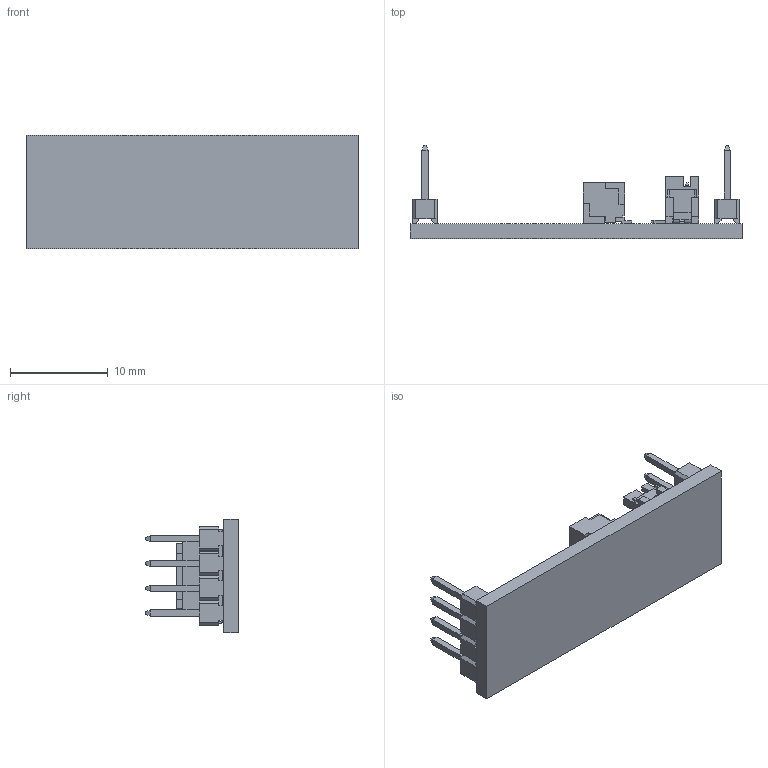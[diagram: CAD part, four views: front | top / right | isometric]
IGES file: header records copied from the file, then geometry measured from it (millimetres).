
Start section: SolidWorks IGES file using analytic representation for surfaces
Global section: file name: C:\Users\Agamemnon\Documents\I2C\LEVEL-CONVERTER-ASM-I2C-LEVEL-CONVERTER-R1\LEVEL-CONVERTER-ASM-I2C-LEVEL-CONVERTER-R1.IGS; native system: SolidWorks 2016; preprocessor: SolidWorks 2016; author: Agamemnon; date: 180709.152321; units: metre
Bounding box: 34 x 9.52 x 11.6 mm (x, y, z)
Surface area: 1788.4 mm2 (no closed solid volume)
Topology: 0 solids, 0 shells, 588 faces, 3396 edges, 3396 vertices
Faces by surface type: bspline 556, revolution 32
